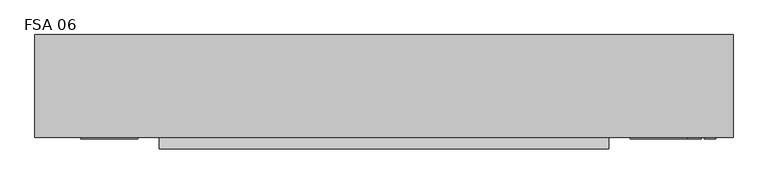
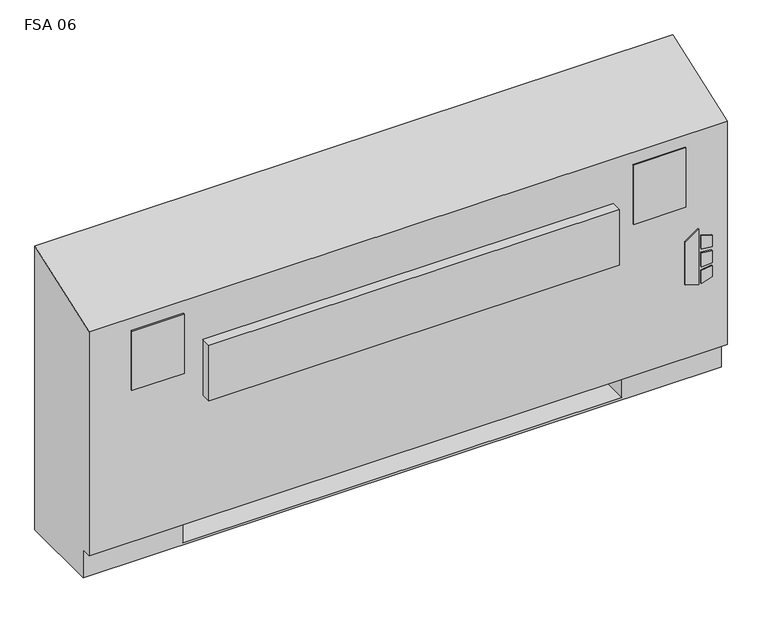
"""IFC4 building model written with IfcOpenShell, lengths in millimetres: proxy geometry, Vertical_Fan_Coil_Unit_-_FSA_-_IEC_-_4-Pipe_FS-FR_LH_2022 : FSA 06."""

from ifc_helpers import new_model, si_unit, point, frame, frame_2d, origin, place, context, project, spatial, polyline, circle_curve, trimmed, segment, composite_curve, outline, extrude, source, transform, mapped, element, save
from ifc_brep_helpers import plane_surface, revolved_surface, advanced_brep


def fsa_06_33f85111(model_context):
    return source(origin(), model_context, "Body", "SolidModel", [
        extrude(outline(polyline([(263.9480703, 823.9868862), (254.0, 856.1602728), (396.1709244, 856.1602728), (373.1489183, 823.9868862), (263.9480703, 823.9868862)])), frame((0.0, 12.7, 0.0), z_axis=(0.0, 1.0, 0.0), x_axis=(0.0, 0.0, 1.0)), (0.0, 0.0, 1.0), 3.175),
        extrude(outline(polyline([(342.9473557, 862.9186058), (339.7449632, 889.0), (368.9738042, 889.0), (377.0382193, 862.9186058), (342.9473557, 862.9186058)])), frame((0.0, 12.7, 0.0), z_axis=(0.0, 1.0, 0.0), x_axis=(0.0, 0.0, 1.0)), (0.0, 0.0, 1.0), 3.175),
        extrude(outline(polyline([(291.0838288, 889.0), (287.4183279, 862.9186058), (254.0, 862.9186058), (262.6342372, 889.0), (291.0838288, 889.0)])), frame((0.0, 12.7, 0.0), z_axis=(0.0, 1.0, 0.0), x_axis=(0.0, 0.0, 1.0)), (0.0, 0.0, 1.0), 3.175),
        extrude(outline(polyline([(330.3989903, 889.0), (332.6808166, 862.9186058), (296.7432681, 862.9186058), (299.4845331, 889.0), (330.3989903, 889.0)])), frame((0.0, 12.7, 0.0), z_axis=(0.0, 1.0, 0.0), x_axis=(0.0, 0.0, 1.0)), (0.0, 0.0, 1.0), 3.175),
        extrude(outline(polyline([(806.45, 223.266), (806.45, 81.534), (685.8, 81.534), (685.8, 223.266), (806.45, 223.266)])), frame((0.0, 0.0, 327.025), z_axis=(0.0, 0.0, 1.0), x_axis=(1.0, 0.0, 0.0)), (0.0, 0.0, 1.0), 260.35),
        extrude(outline(polyline([(-393.7, 12.7), (-520.7, 12.7), (-520.7, 15.875), (-393.7, 15.875), (-393.7, 12.7)])), frame((0.0, 0.0, 463.55), z_axis=(0.0, 0.0, 1.0), x_axis=(1.0, 0.0, 0.0)), (0.0, 0.0, 1.0), 152.4),
        extrude(outline(polyline([(825.5, 12.7), (698.5, 12.7), (698.5, 15.875), (825.5, 15.875), (825.5, 12.7)])), frame((0.0, 0.0, 463.55), z_axis=(0.0, 0.0, 1.0), x_axis=(1.0, 0.0, 0.0)), (0.0, 0.0, 1.0), 152.4),
        extrude(outline(composite_curve([segment(trimmed(circle_curve(frame_2d((-444.5, 130.175)), 9.525), [point((-454.025, 130.175))], [point((-434.975, 130.175))], False, "CARTESIAN"), True, "CONTINUOUS"), segment(trimmed(circle_curve(frame_2d((-444.5, 130.175)), 9.525), [point((-434.975, 130.175))], [point((-454.025, 130.175))], False, "CARTESIAN"), True, "CONTINUOUS")], self_intersect=False)), frame((0.0, 0.0, 101.6), z_axis=(0.0, 0.0, 1.0), x_axis=(1.0, 0.0, 0.0)), (0.0, 0.0, 1.0), 25.4),
        extrude(outline(polyline([(-546.1, 63.5), (-546.1, 196.85), (-381.0, 196.85), (-381.0, 63.5), (-546.1, 63.5)])), frame((0.0, 0.0, 127.0), z_axis=(0.0, 0.0, 1.0), x_axis=(1.0, 0.0, 0.0)), (0.0, 0.0, 1.0), 50.8),
        extrude(outline(polyline([(650.875, -9.525), (-346.075, -9.525), (-346.075, 15.875), (650.875, 15.875), (650.875, -9.525)])), frame((0.0, 0.0, 389.3009245), z_axis=(0.0, 0.0, 1.0), x_axis=(1.0, 0.0, 0.0)), (0.0, 0.0, 1.0), 142.875),
        extrude(outline(composite_curve([segment(trimmed(circle_curve(frame_2d((107.95, 457.2)), 7.9375), [point((107.95, 465.1375))], [point((107.95, 449.2625))], False, "CARTESIAN"), True, "CONTINUOUS"), segment(trimmed(circle_curve(frame_2d((107.95, 457.2)), 7.9375), [point((107.95, 449.2625))], [point((107.95, 465.1375))], False, "CARTESIAN"), True, "CONTINUOUS")], self_intersect=False)), frame((-431.8, 0.0, 0.0), z_axis=(1.0, 0.0, 0.0), x_axis=(0.0, 1.0, 0.0)), (0.0, 0.0, 1.0), 50.8),
        extrude(outline(composite_curve([segment(trimmed(circle_curve(frame_2d((155.575, 431.8)), 7.9375), [point((155.575, 439.7375))], [point((155.575, 423.8625))], False, "CARTESIAN"), True, "CONTINUOUS"), segment(trimmed(circle_curve(frame_2d((155.575, 431.8)), 7.9375), [point((155.575, 423.8625))], [point((155.575, 439.7375))], False, "CARTESIAN"), True, "CONTINUOUS")], self_intersect=False)), frame((-431.8, 0.0, 0.0), z_axis=(1.0, 0.0, 0.0), x_axis=(0.0, 1.0, 0.0)), (0.0, 0.0, 1.0), 50.8),
        extrude(outline(composite_curve([segment(trimmed(circle_curve(frame_2d((53.975, 416.56)), 7.9502), [point((53.975, 424.5102))], [point((53.975, 408.6098))], False, "CARTESIAN"), True, "CONTINUOUS"), segment(trimmed(circle_curve(frame_2d((53.975, 416.56)), 7.9502), [point((53.975, 408.6098))], [point((53.975, 424.5102))], False, "CARTESIAN"), True, "CONTINUOUS")], self_intersect=False)), frame((-431.8, 0.0, 0.0), z_axis=(1.0, 0.0, 0.0), x_axis=(0.0, 1.0, 0.0)), (0.0, 0.0, 1.0), 50.8),
        extrude(outline(composite_curve([segment(trimmed(circle_curve(frame_2d((130.175, 554.99)), 7.9502), [point((130.175, 562.9402))], [point((130.175, 547.0398))], False, "CARTESIAN"), True, "CONTINUOUS"), segment(trimmed(circle_curve(frame_2d((130.175, 554.99)), 7.9502), [point((130.175, 547.0398))], [point((130.175, 562.9402))], False, "CARTESIAN"), True, "CONTINUOUS")], self_intersect=False)), frame((-431.8, 0.0, 0.0), z_axis=(1.0, 0.0, 0.0), x_axis=(0.0, 1.0, 0.0)), (0.0, 0.0, 1.0), 50.8),
        advanced_brep(
        [(-622.3, 244.475, 0.0), (927.1, 244.475, 0.0), (927.1, 41.275, 0.0), (-622.3, 41.275, 0.0), (-622.3, 244.475, 730.25), (927.1, 244.475, 730.25), (685.8, 244.475, 73.025), (914.4, 244.475, 73.025), (914.4, 244.475, 654.05), (685.8, 244.475, 654.05), (685.8, 244.475, 414.8650565), (714.375, 244.475, 414.8650565), (714.375, 244.475, 385.2349435), (685.8, 244.475, 385.2349435), (685.8, 244.475, 287.3375), (714.375, 244.475, 287.3375), (714.375, 244.475, 258.7625), (685.8, 244.475, 258.7625), (685.8, 244.475, 141.2875), (714.375, 244.475, 141.2875), (714.375, 244.475, 112.7125), (685.8, 244.475, 112.7125), (-381.0, 244.475, 654.05), (-609.6, 244.475, 654.05), (-609.6, 244.475, 73.025), (-381.0, 244.475, 73.025), (-381.0, 244.475, 112.7125), (-409.575, 244.475, 112.7125), (-409.575, 244.475, 141.2875), (-381.0, 244.475, 141.2875), (-381.0, 244.475, 258.7625), (-409.575, 244.475, 258.7625), (-409.575, 244.475, 287.3375), (-381.0, 244.475, 287.3375), (-381.0, 244.475, 385.2349435), (-409.575, 244.475, 385.2349435), (-409.575, 244.475, 414.8650565), (-381.0, 244.475, 414.8650565), (704.0626, 244.475, 127.0), (692.9374, 244.475, 127.0), (704.0626, 244.475, 400.05), (692.9374, 244.475, 400.05), (704.0626, 244.475, 273.05), (692.9374, 244.475, 273.05), (-388.1374, 244.475, 127.0), (-399.2626, 244.475, 127.0), (-388.1374, 244.475, 273.05), (-399.2626, 244.475, 273.05), (-388.1374, 244.475, 400.05), (-399.2626, 244.475, 400.05), (-622.3, 41.275, 73.025), (-622.3, 15.875, 73.025), (-622.3, 15.875, 647.7), (927.1, 15.875, 73.025), (927.1, 15.875, 647.7), (927.1, 41.275, 73.025), (-381.0, 41.275, 73.025), (-381.0, 225.425, 73.025), (685.8, 225.425, 73.025), (685.8, 41.275, 73.025), (685.8, 41.275, 6.35), (-381.0, 41.275, 6.35), (685.8, 41.275, 654.05), (914.4, 41.275, 654.05), (914.4, 41.275, 73.025), (685.8, 41.275, 73.025), (-381.0, 41.275, 654.05), (-381.0, 41.275, 73.025), (-609.6, 41.275, 73.025), (-609.6, 41.275, 654.05), (685.8, 225.425, 73.025), (685.8, 238.125, 112.7125), (685.8, 238.125, 141.2875), (685.8, 238.125, 258.7625), (685.8, 238.125, 287.3375), (685.8, 238.125, 385.2349435), (685.8, 238.125, 414.8650565), (-381.0, 225.425, 73.025), (-381.0, 238.125, 414.8650565), (-381.0, 238.125, 385.2349435), (-381.0, 238.125, 287.3375), (-381.0, 238.125, 258.7625), (-381.0, 238.125, 141.2875), (-381.0, 238.125, 112.7125), (-381.0, 225.425, 6.35), (685.8, 225.425, 6.35), (714.375, 238.125, 112.7125), (714.375, 238.125, 141.2875), (692.9374, 238.125, 127.0), (704.0626, 238.125, 127.0), (714.375, 238.125, 258.7625), (714.375, 238.125, 287.3375), (692.9374, 238.125, 273.05), (704.0626, 238.125, 273.05), (714.375, 238.125, 385.2349435), (714.375, 238.125, 414.8650565), (692.9374, 238.125, 400.05), (704.0626, 238.125, 400.05), (-409.575, 238.125, 141.2875), (-409.575, 238.125, 112.7125), (-399.2626, 238.125, 127.0), (-388.1374, 238.125, 127.0), (-409.575, 238.125, 287.3375), (-409.575, 238.125, 258.7625), (-399.2626, 238.125, 273.05), (-388.1374, 238.125, 273.05), (-409.575, 238.125, 414.8650565), (-409.575, 238.125, 385.2349435), (-399.2626, 238.125, 400.05), (-388.1374, 238.125, 400.05)],
        [
            (0, 1),
            (1, 2),
            (2, 3),
            (3, 0),
            (0, 4),
            (4, 5),
            (5, 1),
            (6, 7),
            (7, 8),
            (8, 9),
            (9, 10),
            (10, 11),
            (11, 12),
            (12, 13),
            (13, 14),
            (14, 15),
            (15, 16),
            (16, 17),
            (17, 18),
            (18, 19),
            (19, 20),
            (20, 21),
            (21, 6),
            (22, 23),
            (23, 24),
            (24, 25),
            (25, 26),
            (26, 27),
            (27, 28),
            (28, 29),
            (29, 30),
            (30, 31),
            (31, 32),
            (32, 33),
            (33, 34),
            (34, 35),
            (35, 36),
            (36, 37),
            (37, 22),
            (38, 39, circle_curve(frame((698.5, 244.475, 127.0), z_axis=(0.0, -1.0, 0.0), x_axis=(-1.0, 0.0, 0.0)), 5.5626)),
            (39, 38, circle_curve(frame((698.5, 244.475, 127.0), z_axis=(0.0, -1.0, 0.0), x_axis=(-1.0, 0.0, 0.0)), 5.5626)),
            (40, 41, circle_curve(frame((698.5, 244.475, 400.05), z_axis=(0.0, -1.0, 0.0), x_axis=(-1.0, 0.0, 0.0)), 5.5626)),
            (41, 40, circle_curve(frame((698.5, 244.475, 400.05), z_axis=(0.0, -1.0, 0.0), x_axis=(-1.0, 0.0, 0.0)), 5.5626)),
            (42, 43, circle_curve(frame((698.5, 244.475, 273.05), z_axis=(0.0, -1.0, 0.0), x_axis=(-1.0, 0.0, 0.0)), 5.5626)),
            (43, 42, circle_curve(frame((698.5, 244.475, 273.05), z_axis=(0.0, -1.0, 0.0), x_axis=(-1.0, 0.0, 0.0)), 5.5626)),
            (44, 45, circle_curve(frame((-393.7, 244.475, 127.0), z_axis=(0.0, -1.0, 0.0), x_axis=(-1.0, 0.0, 0.0)), 5.5626)),
            (45, 44, circle_curve(frame((-393.7, 244.475, 127.0), z_axis=(0.0, -1.0, 0.0), x_axis=(-1.0, 0.0, 0.0)), 5.5626)),
            (46, 47, circle_curve(frame((-393.7, 244.475, 273.05), z_axis=(0.0, -1.0, 0.0), x_axis=(-1.0, 0.0, 0.0)), 5.5626)),
            (47, 46, circle_curve(frame((-393.7, 244.475, 273.05), z_axis=(0.0, -1.0, 0.0), x_axis=(-1.0, 0.0, 0.0)), 5.5626)),
            (48, 49, circle_curve(frame((-393.7, 244.475, 400.05), z_axis=(0.0, -1.0, 0.0), x_axis=(-1.0, 0.0, 0.0)), 5.5626)),
            (49, 48, circle_curve(frame((-393.7, 244.475, 400.05), z_axis=(0.0, -1.0, 0.0), x_axis=(-1.0, 0.0, 0.0)), 5.5626)),
            (3, 50),
            (50, 51),
            (51, 52),
            (52, 4),
            (51, 53),
            (53, 54),
            (54, 52),
            (5, 54),
            (53, 55),
            (55, 2),
            (50, 56),
            (56, 57),
            (57, 58),
            (58, 59),
            (59, 55),
            (59, 60),
            (60, 61),
            (61, 56),
            (62, 63),
            (63, 64),
            (64, 65),
            (65, 62),
            (66, 67),
            (67, 68),
            (68, 69),
            (69, 66),
            (65, 70),
            (70, 6),
            (21, 71),
            (71, 72),
            (72, 18),
            (17, 73),
            (73, 74),
            (74, 14),
            (13, 75),
            (75, 76),
            (76, 10),
            (9, 62),
            (64, 7),
            (63, 8),
            (69, 23),
            (22, 66),
            (68, 24),
            (67, 77),
            (77, 25),
            (37, 78),
            (78, 79),
            (79, 34),
            (33, 80),
            (80, 81),
            (81, 30),
            (29, 82),
            (82, 83),
            (83, 26),
            (57, 84),
            (84, 85),
            (85, 58),
            (85, 60),
            (84, 61),
            (71, 86),
            (86, 87),
            (87, 72),
            (88, 89, circle_curve(frame((698.5, 238.125, 127.0), z_axis=(0.0, 1.0, 0.0), x_axis=(-1.0, 0.0, 0.0)), 5.5626)),
            (89, 88, circle_curve(frame((698.5, 238.125, 127.0), z_axis=(0.0, 1.0, 0.0), x_axis=(-1.0, 0.0, 0.0)), 5.5626)),
            (73, 90),
            (90, 91),
            (91, 74),
            (92, 93, circle_curve(frame((698.5, 238.125, 273.05), z_axis=(0.0, 1.0, 0.0), x_axis=(-1.0, 0.0, 0.0)), 5.5626)),
            (93, 92, circle_curve(frame((698.5, 238.125, 273.05), z_axis=(0.0, 1.0, 0.0), x_axis=(-1.0, 0.0, 0.0)), 5.5626)),
            (75, 94),
            (94, 95),
            (95, 76),
            (96, 97, circle_curve(frame((698.5, 238.125, 400.05), z_axis=(0.0, 1.0, 0.0), x_axis=(-1.0, 0.0, 0.0)), 5.5626)),
            (97, 96, circle_curve(frame((698.5, 238.125, 400.05), z_axis=(0.0, 1.0, 0.0), x_axis=(-1.0, 0.0, 0.0)), 5.5626)),
            (98, 99),
            (99, 83),
            (82, 98),
            (100, 101, circle_curve(frame((-393.7, 238.125, 127.0), z_axis=(0.0, 1.0, 0.0), x_axis=(-1.0, 0.0, 0.0)), 5.5626)),
            (101, 100, circle_curve(frame((-393.7, 238.125, 127.0), z_axis=(0.0, 1.0, 0.0), x_axis=(-1.0, 0.0, 0.0)), 5.5626)),
            (102, 103),
            (103, 81),
            (80, 102),
            (104, 105, circle_curve(frame((-393.7, 238.125, 273.05), z_axis=(0.0, 1.0, 0.0), x_axis=(-1.0, 0.0, 0.0)), 5.5626)),
            (105, 104, circle_curve(frame((-393.7, 238.125, 273.05), z_axis=(0.0, 1.0, 0.0), x_axis=(-1.0, 0.0, 0.0)), 5.5626)),
            (106, 107),
            (107, 79),
            (78, 106),
            (108, 109, circle_curve(frame((-393.7, 238.125, 400.05), z_axis=(0.0, 1.0, 0.0), x_axis=(-1.0, 0.0, 0.0)), 5.5626)),
            (109, 108, circle_curve(frame((-393.7, 238.125, 400.05), z_axis=(0.0, 1.0, 0.0), x_axis=(-1.0, 0.0, 0.0)), 5.5626)),
            (87, 19),
            (86, 20),
            (91, 15),
            (90, 16),
            (95, 11),
            (94, 12),
            (28, 98),
            (99, 27),
            (32, 102),
            (103, 31),
            (36, 106),
            (107, 35),
            (88, 39),
            (38, 89),
            (96, 41),
            (40, 97),
            (92, 43),
            (42, 93),
            (100, 45),
            (44, 101),
            (104, 47),
            (46, 105),
            (108, 49),
            (48, 109),
        ],
        [
            plane_surface(frame((-622.3, 244.475, 0.0), z_axis=(0.0, 0.0, -1.0), x_axis=(1.0, 0.0, 0.0))),
            plane_surface(frame((927.1, 244.475, 730.25), z_axis=(0.0, 1.0, 0.0), x_axis=(0.0, 0.0, -1.0))),
            plane_surface(frame((-622.3, 244.475, 730.25), z_axis=(-1.0, 0.0, 0.0), x_axis=(0.0, 0.0, -1.0))),
            plane_surface(frame((-622.3, 15.875, 730.25), z_axis=(0.0, -1.0, 0.0), x_axis=(0.0, 0.0, -1.0))),
            plane_surface(frame((927.1, 15.875, 730.25), z_axis=(1.0, 0.0, 0.0), x_axis=(0.0, 0.0, -1.0))),
            plane_surface(frame((-622.3, 15.875, 73.025), z_axis=(0.0, 0.0, -1.0), x_axis=(1.0, 0.0, 0.0))),
            plane_surface(frame((-622.3, 41.275, 73.025), z_axis=(0.0, -1.0, 0.0), x_axis=(1.0, 0.0, 0.0))),
            plane_surface(frame((685.8, 41.275, 654.05), z_axis=(0.0, 1.0, 0.0), x_axis=(0.0, 0.0, -1.0))),
            plane_surface(frame((685.8, 41.275, 654.05), z_axis=(1.0, 0.0, 0.0), x_axis=(0.0, 1.0, 0.0))),
            plane_surface(frame((685.8, 41.275, 73.025), z_axis=(0.0, 0.0, 1.0), x_axis=(0.0, 1.0, 0.0))),
            plane_surface(frame((914.4, 41.275, 73.025), z_axis=(-1.0, 0.0, 0.0), x_axis=(0.0, 1.0, 0.0))),
            plane_surface(frame((914.4, 41.275, 654.05), z_axis=(0.0, 0.0, -1.0), x_axis=(0.0, 1.0, 0.0))),
            plane_surface(frame((-381.0, 41.275, 654.05), z_axis=(0.0, 0.0, -1.0), x_axis=(0.0, 1.0, 0.0))),
            plane_surface(frame((-609.6, 41.275, 654.05), z_axis=(1.0, 0.0, 0.0), x_axis=(0.0, 1.0, 0.0))),
            plane_surface(frame((-609.6, 41.275, 73.025), z_axis=(0.0, 0.0, 1.0), x_axis=(0.0, 1.0, 0.0))),
            plane_surface(frame((-381.0, 41.275, 73.025), z_axis=(-1.0, 0.0, 0.0), x_axis=(0.0, 1.0, 0.0))),
            plane_surface(frame((685.8, 225.425, 73.025), z_axis=(0.0, -1.0, 0.0), x_axis=(0.0, 0.0, -1.0))),
            plane_surface(frame((685.8, 225.425, 73.025), z_axis=(-1.0, 0.0, 0.0), x_axis=(0.0, -1.0, 0.0))),
            plane_surface(frame((685.8, 225.425, 6.35), z_axis=(0.0, 0.0, 1.0), x_axis=(0.0, -1.0, 0.0))),
            plane_surface(frame((-381.0, 225.425, 6.35), z_axis=(1.0, 0.0, 0.0), x_axis=(0.0, -1.0, 0.0))),
            plane_surface(frame((714.375, 238.125, 141.2875), z_axis=(0.0, -1.0, 0.0), x_axis=(-1.0, 0.0, 0.0))),
            plane_surface(frame((685.8, 244.475, 141.2875), z_axis=(0.0, 0.0, 1.0), x_axis=(0.0, -1.0, 0.0))),
            plane_surface(frame((714.375, 244.475, 141.2875), z_axis=(1.0, 0.0, 0.0), x_axis=(0.0, -1.0, 0.0))),
            plane_surface(frame((714.375, 244.475, 112.7125), z_axis=(0.0, 0.0, -1.0), x_axis=(0.0, -1.0, 0.0))),
            plane_surface(frame((685.8, 244.475, 287.3375), z_axis=(0.0, 0.0, 1.0), x_axis=(0.0, -1.0, 0.0))),
            plane_surface(frame((714.375, 244.475, 287.3375), z_axis=(1.0, 0.0, 0.0), x_axis=(0.0, -1.0, 0.0))),
            plane_surface(frame((714.375, 244.475, 258.7625), z_axis=(0.0, 0.0, -1.0), x_axis=(0.0, -1.0, 0.0))),
            plane_surface(frame((685.8, 244.475, 414.8650565), z_axis=(0.0, 0.0, 1.0), x_axis=(0.0, -1.0, 0.0))),
            plane_surface(frame((714.375, 244.475, 414.8650565), z_axis=(1.0, 0.0, 0.0), x_axis=(0.0, -1.0, 0.0))),
            plane_surface(frame((714.375, 244.475, 385.2349435), z_axis=(0.0, 0.0, -1.0), x_axis=(0.0, -1.0, 0.0))),
            plane_surface(frame((-409.575, 244.475, 141.2875), z_axis=(0.0, 0.0, 1.0), x_axis=(0.0, -1.0, 0.0))),
            plane_surface(frame((-381.0, 244.475, 112.7125), z_axis=(0.0, 0.0, -1.0), x_axis=(0.0, -1.0, 0.0))),
            plane_surface(frame((-409.575, 244.475, 112.7125), z_axis=(-1.0, 0.0, 0.0), x_axis=(0.0, -1.0, 0.0))),
            plane_surface(frame((-409.575, 244.475, 287.3375), z_axis=(0.0, 0.0, 1.0), x_axis=(0.0, -1.0, 0.0))),
            plane_surface(frame((-381.0, 244.475, 258.7625), z_axis=(0.0, 0.0, -1.0), x_axis=(0.0, -1.0, 0.0))),
            plane_surface(frame((-409.575, 244.475, 258.7625), z_axis=(-1.0, 0.0, 0.0), x_axis=(0.0, -1.0, 0.0))),
            plane_surface(frame((-409.575, 244.475, 414.8650565), z_axis=(0.0, 0.0, 1.0), x_axis=(0.0, -1.0, 0.0))),
            plane_surface(frame((-381.0, 244.475, 385.2349435), z_axis=(0.0, 0.0, -1.0), x_axis=(0.0, -1.0, 0.0))),
            plane_surface(frame((-409.575, 244.475, 385.2349435), z_axis=(-1.0, 0.0, 0.0), x_axis=(0.0, -1.0, 0.0))),
            revolved_surface(polyline([(692.9374, 238.125, 127.0), (692.9374, 244.475, 127.0)]), (698.5, 244.475, 127.0), (0.0, -1.0, 0.0)),
            revolved_surface(polyline([(692.9374, 238.125, 400.05), (692.9374, 244.475, 400.05)]), (698.5, 244.475, 400.05), (0.0, -1.0, 0.0)),
            revolved_surface(polyline([(692.9374, 238.125, 273.05), (692.9374, 244.475, 273.05)]), (698.5, 244.475, 273.05), (0.0, -1.0, 0.0)),
            revolved_surface(polyline([(-399.26259999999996, 238.125, 127.0), (-399.26259999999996, 244.475, 127.0)]), (-393.7, 244.475, 127.0), (0.0, -1.0, 0.0)),
            revolved_surface(polyline([(-399.26259999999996, 238.125, 273.05), (-399.26259999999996, 244.475, 273.05)]), (-393.7, 244.475, 273.05), (0.0, -1.0, 0.0)),
            revolved_surface(polyline([(-399.26259999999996, 238.125, 400.05), (-399.26259999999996, 244.475, 400.05)]), (-393.7, 244.475, 400.05), (0.0, -1.0, 0.0)),
            plane_surface(frame((-622.3, 244.475, 730.25), z_axis=(0.0, -0.33964446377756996, 0.9405538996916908), x_axis=(1.0, 0.0, 0.0))),
        ],
        [
            (0, [[1, 2, 3, 4]]),
            (1, [[-1, 5, 6, 7], [8, 9, 10, 11, 12, 13, 14, 15, 16, 17, 18, 19, 20, 21, 22, 23], [24, 25, 26, 27, 28, 29, 30, 31, 32, 33, 34, 35, 36, 37, 38, 39], [40, 41], [42, 43], [44, 45], [46, 47], [48, 49], [50, 51]]),
            (2, [[-5, -4, 52, 53, 54, 55]]),
            (3, [[56, 57, 58, -54]]),
            (4, [[-7, 59, -57, 60, 61, -2]]),
            (5, [[-53, 62, 63, 64, 65, 66, -60, -56]]),
            (6, [[-3, -61, -66, 67, 68, 69, -62, -52]]),
            (7, [[70, 71, 72, 73]]),
            (7, [[74, 75, 76, 77]]),
            (8, [[-73, 78, 79, -23, 80, 81, 82, -19, 83, 84, 85, -15, 86, 87, 88, -11, 89]]),
            (9, [[-72, 90, -8, -79, -78]]),
            (10, [[-71, 91, -9, -90]]),
            (11, [[-70, -89, -10, -91]]),
            (12, [[-77, 92, -24, 93]]),
            (13, [[-76, 94, -25, -92]]),
            (14, [[-75, 95, 96, -26, -94]]),
            (15, [[-74, -93, -39, 97, 98, 99, -35, 100, 101, 102, -31, 103, 104, 105, -27, -96, -95]]),
            (16, [[-64, 106, 107, 108]]),
            (17, [[-108, 109, -67, -65]]),
            (18, [[-107, 110, -68, -109]]),
            (19, [[-106, -63, -69, -110]]),
            (20, [[111, 112, 113, -81], [114, 115]]),
            (20, [[116, 117, 118, -84], [119, 120]]),
            (20, [[121, 122, 123, -87], [124, 125]]),
            (20, [[126, 127, -104, 128], [129, 130]]),
            (20, [[131, 132, -101, 133], [134, 135]]),
            (20, [[136, 137, -98, 138], [139, 140]]),
            (21, [[-113, 141, -20, -82]]),
            (22, [[-112, 142, -21, -141]]),
            (23, [[-111, -80, -22, -142]]),
            (24, [[-118, 143, -16, -85]]),
            (25, [[-117, 144, -17, -143]]),
            (26, [[-116, -83, -18, -144]]),
            (27, [[-123, 145, -12, -88]]),
            (28, [[-122, 146, -13, -145]]),
            (29, [[-121, -86, -14, -146]]),
            (30, [[-128, -103, -30, 147]]),
            (31, [[-127, 148, -28, -105]]),
            (32, [[-126, -147, -29, -148]]),
            (33, [[-133, -100, -34, 149]]),
            (34, [[-132, 150, -32, -102]]),
            (35, [[-131, -149, -33, -150]]),
            (36, [[-138, -97, -38, 151]]),
            (37, [[-137, 152, -36, -99]]),
            (38, [[-136, -151, -37, -152]]),
            (39, [[153, -40, 154, -114]]),
            (39, [[-153, -115, -154, -41]]),
            (40, [[155, -42, 156, -124]]),
            (40, [[-155, -125, -156, -43]]),
            (41, [[157, -44, 158, -119]]),
            (41, [[-157, -120, -158, -45]]),
            (42, [[159, -46, 160, -129]]),
            (42, [[-159, -130, -160, -47]]),
            (43, [[161, -48, 162, -134]]),
            (43, [[-161, -135, -162, -49]]),
            (44, [[163, -50, 164, -139]]),
            (44, [[-163, -140, -164, -51]]),
            (45, [[-6, -55, -58, -59]]),
        ],
    ),
    ])


if __name__ == "__main__":
    model = new_model("IFC4")
    model_context = context("Model", 3, world=origin())
    ifc_project = project(units=[si_unit("LENGTHUNIT", "METRE", prefix="MILLI")], contexts=[model_context])
    site = spatial("IfcSite", under=ifc_project)
    building = spatial("IfcBuilding", under=site)
    placement = place(None, origin())
    fsa_06_shape = fsa_06_33f85111(model_context)
    element("IfcBuildingElementProxy", 1, Name="Vertical_Fan_Coil_Unit_-_FSA_-_IEC_-_4-Pipe_FS-FR_LH_2022 : FSA 06", ObjectType="Vertical_Fan_Coil_Unit_-_FSA_-_IEC_-_4-Pipe_FS-FR_LH_2022 : FSA 06", at=placement, inside=building, context=model_context, shape_type="MappedRepresentation", body=[
        mapped(fsa_06_shape, transform((0.0, 0.0, 0.0), x_axis=(1.0, 0.0, 0.0), y_axis=(0.0, 1.0, 0.0), z_axis=(0.0, 0.0, 1.0))),
    ])
    save(model, "model.ifc")
